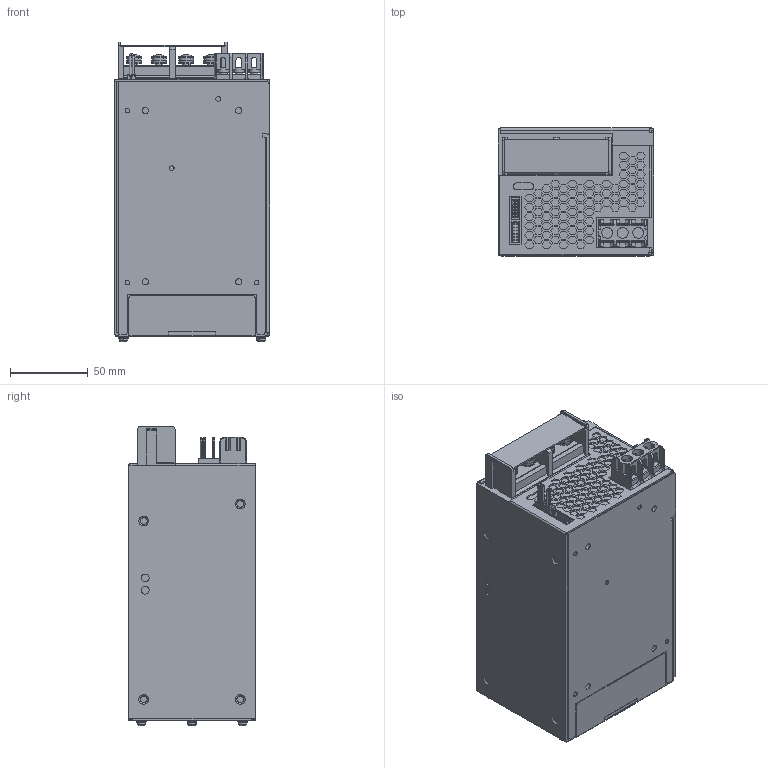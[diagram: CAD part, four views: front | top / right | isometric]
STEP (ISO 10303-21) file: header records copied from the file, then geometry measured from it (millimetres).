
FILE_DESCRIPTION (( 'STEP AP214' ), '1' );
FILE_NAME ('HWS600_OUTLINE.STEP', '2006-05-10T01:16:23', ( ' ' ), ( ' ' ), 'SwSTEP 2.0', 'SolidWorks 2005354', '' );
FILE_SCHEMA (( 'AUTOMOTIVE_DESIGN' ));
Length unit declared in the file: millimetre
Products named in the file (1): HWS600_OUTLINE
Bounding box: 100 x 82 x 192.55 mm (x, y, z)
Volume: 1362579 mm3; surface area: 98782.9 mm2
Topology: 3 solids, 5 shells, 2223 faces, 5717 edges, 3710 vertices
Faces by surface type: plane 1497, cylinder 603, cone 65, torus 44, sphere 14
Entity records: 92028 total; most frequent: CARTESIAN_POINT 12036, DIRECTION 11680, ORIENTED_EDGE 11406, EDGE_CURVE 5703, VECTOR 4012, LINE 4012, AXIS2_PLACEMENT_3D 3834, VERTEX_POINT 3710
